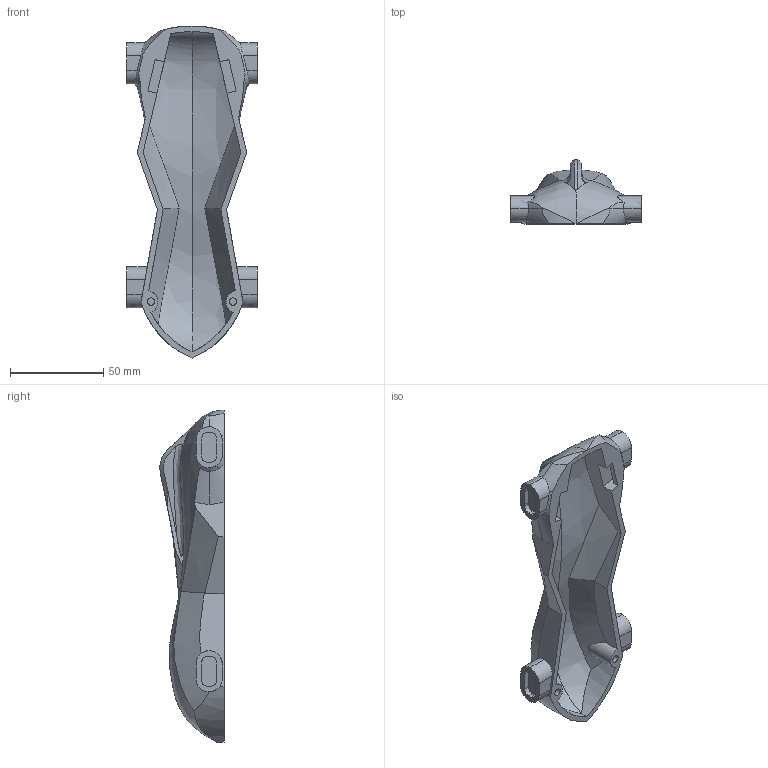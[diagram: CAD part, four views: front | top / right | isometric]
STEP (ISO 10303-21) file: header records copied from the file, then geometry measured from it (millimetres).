
FILE_DESCRIPTION(/* description */ (''),/* implementation_level */ '2;1');
FILE_NAME(/* name */ 'N:\Documents\Drone Top.stp',/* time_stamp */ '2024-01-16T07:58:48Z',/* author */ ('016nscott'),/* organization */ (''),/* preprocessor_version */ 'ST-DEVELOPER v19',/* originating_system */ 'Autodesk Inventor 2023',/* authorisation */ '');
FILE_SCHEMA (('AUTOMOTIVE_DESIGN { 1 0 10303 214 3 1 1 }'));
Length unit declared in the file: millimetre
Products named in the file (1): Drone Top
Bounding box: 70 x 34.36 x 177.89 mm (x, y, z)
Volume: 60542.7 mm3; surface area: 33042.6 mm2
Topology: 1 solids, 1 shells, 144 faces, 398 edges, 263 vertices
Faces by surface type: plane 65, bspline 55, cylinder 24
Full cylindrical faces by diameter (mm): 4 x2
Entity records: 14172 total; most frequent: CARTESIAN_POINT 10733, ORIENTED_EDGE 796, DIRECTION 484, EDGE_CURVE 398, VERTEX_POINT 263, LINE 196, VECTOR 196, EDGE_LOOP 151
